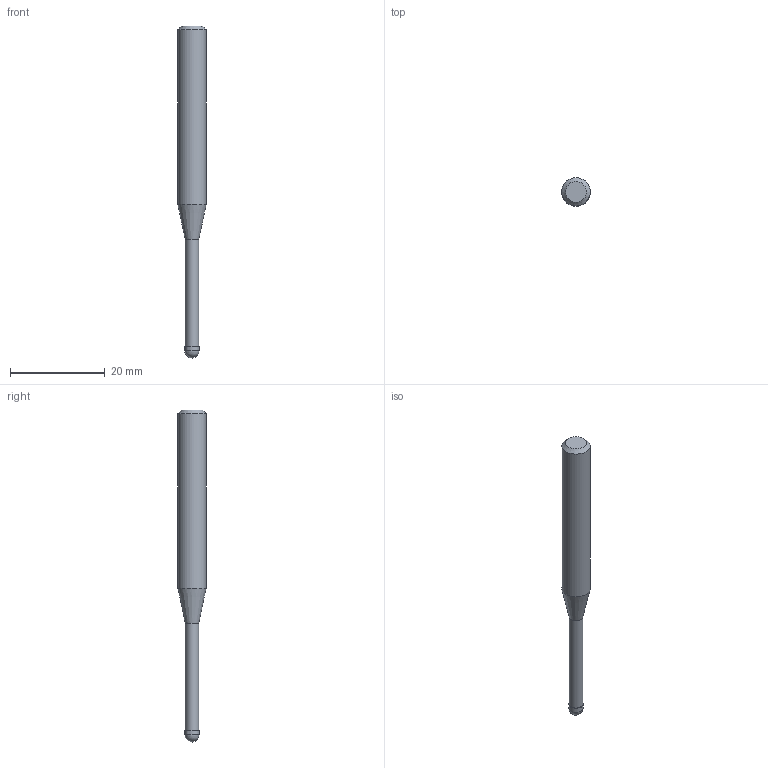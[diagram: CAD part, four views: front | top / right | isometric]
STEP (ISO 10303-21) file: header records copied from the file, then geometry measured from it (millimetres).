
FILE_DESCRIPTION((''),'2;1');
FILE_NAME('C:\Users\nsx150\AppData\Local\Temp\Mastercam 2021\ZXBT0ST9RL\TEMP.step','2021-06-25T11:03:22',(''),(''),'STEP Write','Mastercam 2021 ... CNC Software, Inc.','');
FILE_SCHEMA(('AUTOMOTIVE_DESIGN'));
Length unit declared in the file: millimetre
Products named in the file (1): None
Bounding box: 6 x 6 x 70 mm (x, y, z)
Volume: 1333.8 mm3; surface area: 1070.9 mm2
Topology: 2 solids, 2 shells, 9 faces, 14 edges, 8 vertices
Faces by surface type: plane 3, cylinder 3, cone 2, sphere 1
Full cylindrical faces by diameter (mm): 2.85 x1, 3 x1, 6 x1
Entity records: 211 total; most frequent: DIRECTION 36, CARTESIAN_POINT 25, AXIS2_PLACEMENT_3D 18, ORIENTED_EDGE 14, EDGE_LOOP 14, STYLED_ITEM 12, ADVANCED_FACE 9, FACE_BOUND 8
